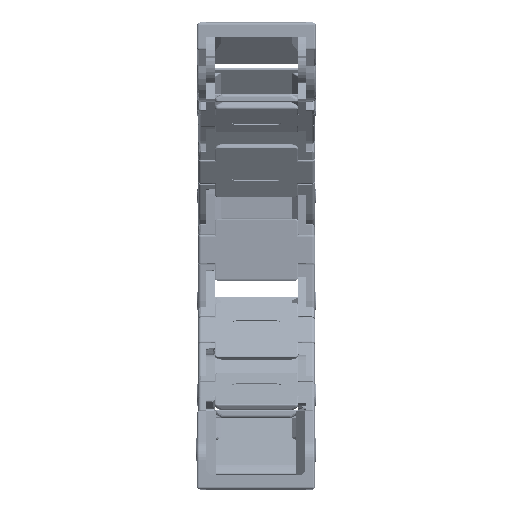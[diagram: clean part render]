
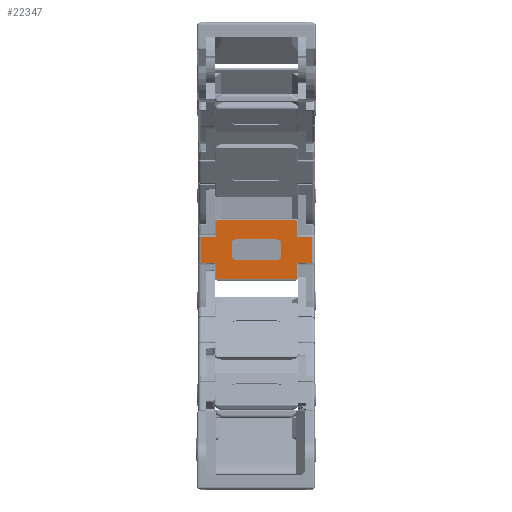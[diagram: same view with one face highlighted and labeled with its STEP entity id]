
A CAD part, front view. The second image highlights one B-rep face of the part: STEP entity #22347.
In plain terms, the highlighted planar face has unit normal (0, -0.997, -0.074).
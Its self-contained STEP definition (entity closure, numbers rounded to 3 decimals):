
#755=FACE_BOUND('',#50210,.T.);
#756=FACE_BOUND('',#50211,.T.);
#12382=CIRCLE('',#208041,0.45);
#12383=CIRCLE('',#208042,0.45);
#12384=CIRCLE('',#208043,0.45);
#12385=CIRCLE('',#208044,0.45);
#12386=CIRCLE('',#208045,1.);
#12387=CIRCLE('',#208046,1.);
#12388=CIRCLE('',#208047,1.);
#12389=CIRCLE('',#208048,1.);
#22347=ADVANCED_FACE('',(#755,#756),#31982,.T.);
#31982=PLANE('',#208049);
#50210=EDGE_LOOP('',(#111236,#111237,#111238,#111239,#111240,#111241,#111242,
#111243,#111244,#111245,#111246,#111247,#111248,#111249,#111250,#111251));
#50211=EDGE_LOOP('',(#111252,#111253,#111254,#111255,#111256,#111257,#111258,
#111259));
#66490=LINE('',#313203,#82263);
#66491=LINE('',#313208,#82264);
#66492=LINE('',#313210,#82265);
#66493=LINE('',#313212,#82266);
#66494=LINE('',#313214,#82267);
#66495=LINE('',#313216,#82268);
#66496=LINE('',#313220,#82269);
#66497=LINE('',#313224,#82270);
#66498=LINE('',#313226,#82271);
#66499=LINE('',#313228,#82272);
#66500=LINE('',#313230,#82273);
#66501=LINE('',#313232,#82274);
#66502=LINE('',#313238,#82275);
#66503=LINE('',#313242,#82276);
#66504=LINE('',#313246,#82277);
#66505=LINE('',#313250,#82278);
#82263=VECTOR('',#241994,1.);
#82264=VECTOR('',#241997,1.);
#82265=VECTOR('',#241998,1.);
#82266=VECTOR('',#241999,1.);
#82267=VECTOR('',#242000,1.);
#82268=VECTOR('',#242001,1.);
#82269=VECTOR('',#242004,1.);
#82270=VECTOR('',#242007,1.);
#82271=VECTOR('',#242008,1.);
#82272=VECTOR('',#242009,1.);
#82273=VECTOR('',#242010,1.);
#82274=VECTOR('',#242011,1.);
#82275=VECTOR('',#242016,1.);
#82276=VECTOR('',#242019,1.);
#82277=VECTOR('',#242022,1.);
#82278=VECTOR('',#242025,1.);
#111236=ORIENTED_EDGE('',*,*,#178964,.T.);
#111237=ORIENTED_EDGE('',*,*,#178965,.F.);
#111238=ORIENTED_EDGE('',*,*,#178966,.T.);
#111239=ORIENTED_EDGE('',*,*,#178967,.T.);
#111240=ORIENTED_EDGE('',*,*,#178968,.T.);
#111241=ORIENTED_EDGE('',*,*,#178969,.T.);
#111242=ORIENTED_EDGE('',*,*,#178970,.T.);
#111243=ORIENTED_EDGE('',*,*,#178971,.T.);
#111244=ORIENTED_EDGE('',*,*,#178972,.T.);
#111245=ORIENTED_EDGE('',*,*,#178973,.T.);
#111246=ORIENTED_EDGE('',*,*,#178974,.T.);
#111247=ORIENTED_EDGE('',*,*,#178975,.T.);
#111248=ORIENTED_EDGE('',*,*,#178976,.F.);
#111249=ORIENTED_EDGE('',*,*,#178977,.T.);
#111250=ORIENTED_EDGE('',*,*,#178978,.T.);
#111251=ORIENTED_EDGE('',*,*,#178979,.T.);
#111252=ORIENTED_EDGE('',*,*,#178980,.T.);
#111253=ORIENTED_EDGE('',*,*,#178981,.T.);
#111254=ORIENTED_EDGE('',*,*,#178982,.T.);
#111255=ORIENTED_EDGE('',*,*,#178983,.T.);
#111256=ORIENTED_EDGE('',*,*,#178984,.T.);
#111257=ORIENTED_EDGE('',*,*,#178985,.T.);
#111258=ORIENTED_EDGE('',*,*,#178986,.T.);
#111259=ORIENTED_EDGE('',*,*,#178987,.T.);
#157544=VERTEX_POINT('',#313204);
#157545=VERTEX_POINT('',#313205);
#157546=VERTEX_POINT('',#313207);
#157547=VERTEX_POINT('',#313209);
#157548=VERTEX_POINT('',#313211);
#157549=VERTEX_POINT('',#313213);
#157550=VERTEX_POINT('',#313215);
#157551=VERTEX_POINT('',#313217);
#157552=VERTEX_POINT('',#313219);
#157553=VERTEX_POINT('',#313221);
#157554=VERTEX_POINT('',#313223);
#157555=VERTEX_POINT('',#313225);
#157556=VERTEX_POINT('',#313227);
#157557=VERTEX_POINT('',#313229);
#157558=VERTEX_POINT('',#313231);
#157559=VERTEX_POINT('',#313233);
#157560=VERTEX_POINT('',#313236);
#157561=VERTEX_POINT('',#313237);
#157562=VERTEX_POINT('',#313239);
#157563=VERTEX_POINT('',#313241);
#157564=VERTEX_POINT('',#313243);
#157565=VERTEX_POINT('',#313245);
#157566=VERTEX_POINT('',#313247);
#157567=VERTEX_POINT('',#313249);
#178964=EDGE_CURVE('',#157544,#157545,#66490,.T.);
#178965=EDGE_CURVE('',#157546,#157545,#12382,.T.);
#178966=EDGE_CURVE('',#157546,#157547,#66491,.T.);
#178967=EDGE_CURVE('',#157547,#157548,#66492,.T.);
#178968=EDGE_CURVE('',#157548,#157549,#66493,.T.);
#178969=EDGE_CURVE('',#157549,#157550,#66494,.T.);
#178970=EDGE_CURVE('',#157550,#157551,#66495,.T.);
#178971=EDGE_CURVE('',#157551,#157552,#12383,.T.);
#178972=EDGE_CURVE('',#157552,#157553,#66496,.T.);
#178973=EDGE_CURVE('',#157553,#157554,#12384,.T.);
#178974=EDGE_CURVE('',#157554,#157555,#66497,.T.);
#178975=EDGE_CURVE('',#157555,#157556,#66498,.T.);
#178976=EDGE_CURVE('',#157557,#157556,#66499,.T.);
#178977=EDGE_CURVE('',#157557,#157558,#66500,.T.);
#178978=EDGE_CURVE('',#157558,#157559,#66501,.T.);
#178979=EDGE_CURVE('',#157559,#157544,#12385,.T.);
#178980=EDGE_CURVE('',#157560,#157561,#12386,.T.);
#178981=EDGE_CURVE('',#157561,#157562,#66502,.T.);
#178982=EDGE_CURVE('',#157562,#157563,#12387,.T.);
#178983=EDGE_CURVE('',#157563,#157564,#66503,.T.);
#178984=EDGE_CURVE('',#157564,#157565,#12388,.T.);
#178985=EDGE_CURVE('',#157565,#157566,#66504,.T.);
#178986=EDGE_CURVE('',#157566,#157567,#12389,.T.);
#178987=EDGE_CURVE('',#157567,#157560,#66505,.T.);
#208041=AXIS2_PLACEMENT_3D('',#313206,#241995,#241996);
#208042=AXIS2_PLACEMENT_3D('',#313218,#242002,#242003);
#208043=AXIS2_PLACEMENT_3D('',#313222,#242005,#242006);
#208044=AXIS2_PLACEMENT_3D('',#313234,#242012,#242013);
#208045=AXIS2_PLACEMENT_3D('',#313235,#242014,#242015);
#208046=AXIS2_PLACEMENT_3D('',#313240,#242017,#242018);
#208047=AXIS2_PLACEMENT_3D('',#313244,#242020,#242021);
#208048=AXIS2_PLACEMENT_3D('',#313248,#242023,#242024);
#208049=AXIS2_PLACEMENT_3D('',#313251,#242026,#242027);
#241994=DIRECTION('',(1.,0.,0.));
#241995=DIRECTION('',(0.,0.997,0.074));
#241996=DIRECTION('',(1.,0.,0.));
#241997=DIRECTION('',(0.,-0.074,0.997));
#241998=DIRECTION('',(1.,0.,0.));
#241999=DIRECTION('',(0.,-0.074,0.997));
#242000=DIRECTION('',(-1.,0.,0.));
#242001=DIRECTION('',(0.,-0.074,0.997));
#242002=DIRECTION('',(0.,-0.997,-0.074));
#242003=DIRECTION('',(1.,0.,0.));
#242004=DIRECTION('',(-1.,0.,0.));
#242005=DIRECTION('',(0.,-0.997,-0.074));
#242006=DIRECTION('',(1.,0.,0.));
#242007=DIRECTION('',(0.,0.074,-0.997));
#242008=DIRECTION('',(-1.,0.,0.));
#242009=DIRECTION('',(0.,-0.074,0.997));
#242010=DIRECTION('',(1.,0.,0.));
#242011=DIRECTION('',(0.,0.074,-0.997));
#242012=DIRECTION('',(0.,-0.997,-0.074));
#242013=DIRECTION('',(1.,0.,0.));
#242014=DIRECTION('',(0.,0.997,0.074));
#242015=DIRECTION('',(1.,0.,0.));
#242016=DIRECTION('',(0.,0.074,-0.997));
#242017=DIRECTION('',(0.,0.997,0.074));
#242018=DIRECTION('',(1.,0.,0.));
#242019=DIRECTION('',(-1.,0.,0.));
#242020=DIRECTION('',(0.,0.997,0.074));
#242021=DIRECTION('',(1.,0.,0.));
#242022=DIRECTION('',(0.,-0.074,0.997));
#242023=DIRECTION('',(0.,0.997,0.074));
#242024=DIRECTION('',(1.,0.,0.));
#242025=DIRECTION('',(1.,0.,0.));
#242026=DIRECTION('',(0.,-0.997,-0.074));
#242027=DIRECTION('',(1.,0.,0.));
#313203=CARTESIAN_POINT('',(382.75,319.588,41.246));
#313204=CARTESIAN_POINT('',(386.75,319.588,41.246));
#313205=CARTESIAN_POINT('',(405.45,319.588,41.246));
#313206=CARTESIAN_POINT('',(405.45,319.554,41.695));
#313207=CARTESIAN_POINT('',(405.9,319.554,41.695));
#313208=CARTESIAN_POINT('',(405.9,319.301,45.086));
#313209=CARTESIAN_POINT('',(405.9,319.29,45.235));
#313210=CARTESIAN_POINT('',(382.75,319.29,45.235));
#313211=CARTESIAN_POINT('',(409.45,319.29,45.235));
#313212=CARTESIAN_POINT('',(409.45,320.452,29.662));
#313213=CARTESIAN_POINT('',(409.45,318.814,51.618));
#313214=CARTESIAN_POINT('',(382.75,318.814,51.618));
#313215=CARTESIAN_POINT('',(405.9,318.814,51.618));
#313216=CARTESIAN_POINT('',(405.9,320.452,29.662));
#313217=CARTESIAN_POINT('',(405.9,318.55,55.158));
#313218=CARTESIAN_POINT('',(405.45,318.55,55.158));
#313219=CARTESIAN_POINT('',(405.45,318.516,55.606));
#313220=CARTESIAN_POINT('',(382.75,318.516,55.606));
#313221=CARTESIAN_POINT('',(386.75,318.516,55.606));
#313222=CARTESIAN_POINT('',(386.75,318.55,55.158));
#313223=CARTESIAN_POINT('',(386.3,318.55,55.158));
#313224=CARTESIAN_POINT('',(386.3,320.452,29.662));
#313225=CARTESIAN_POINT('',(386.3,318.814,51.618));
#313226=CARTESIAN_POINT('',(382.75,318.814,51.618));
#313227=CARTESIAN_POINT('',(382.75,318.814,51.618));
#313228=CARTESIAN_POINT('',(382.75,320.452,29.662));
#313229=CARTESIAN_POINT('',(382.75,319.29,45.235));
#313230=CARTESIAN_POINT('',(382.75,319.29,45.235));
#313231=CARTESIAN_POINT('',(386.3,319.29,45.235));
#313232=CARTESIAN_POINT('',(386.3,320.452,29.662));
#313233=CARTESIAN_POINT('',(386.3,319.554,41.695));
#313234=CARTESIAN_POINT('',(386.75,319.554,41.695));
#313235=CARTESIAN_POINT('',(401.1,318.94,49.922));
#313236=CARTESIAN_POINT('',(401.1,318.866,50.92));
#313237=CARTESIAN_POINT('',(402.1,318.94,49.922));
#313238=CARTESIAN_POINT('',(402.1,320.452,29.662));
#313239=CARTESIAN_POINT('',(402.1,319.164,46.931));
#313240=CARTESIAN_POINT('',(401.1,319.164,46.931));
#313241=CARTESIAN_POINT('',(401.1,319.238,45.933));
#313242=CARTESIAN_POINT('',(382.75,319.238,45.933));
#313243=CARTESIAN_POINT('',(391.1,319.238,45.933));
#313244=CARTESIAN_POINT('',(391.1,319.164,46.931));
#313245=CARTESIAN_POINT('',(390.1,319.164,46.931));
#313246=CARTESIAN_POINT('',(390.1,320.452,29.662));
#313247=CARTESIAN_POINT('',(390.1,318.94,49.922));
#313248=CARTESIAN_POINT('',(391.1,318.94,49.922));
#313249=CARTESIAN_POINT('',(391.1,318.866,50.92));
#313250=CARTESIAN_POINT('',(382.75,318.866,50.92));
#313251=CARTESIAN_POINT('',(382.75,320.452,29.662));
